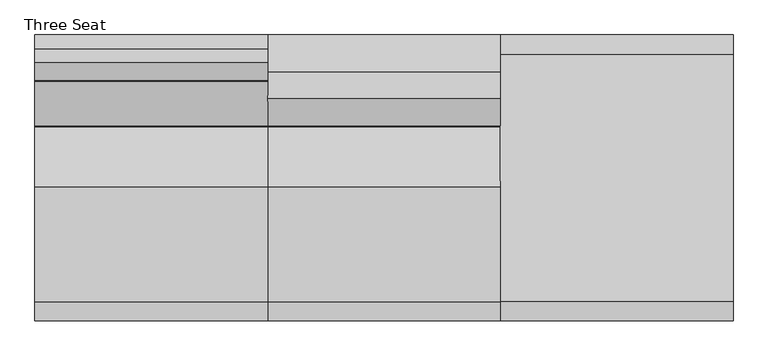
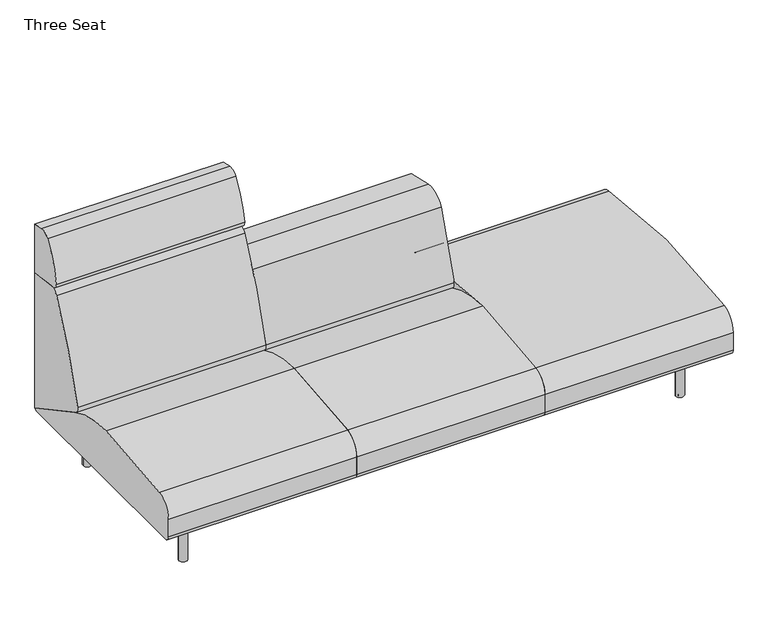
"""IFC4 building model written with IfcOpenShell, lengths in millimetres: furniture geometry, Coalesse_AM_Seating_LoungeChair_Sistema_LegBase_ThreeSeat : Three Seat."""

from ifc_helpers import new_model, si_unit, point, frame, frame_2d, origin, origin_with_axes, place, context, project, spatial, polyline, circle_curve, trimmed, segment, composite_curve, outline, extrude, source, transform, mapped, element, save


def three_seat_a38e2124(model_context):
    return source(origin(), model_context, "Body", "SweptSolid", [
        extrude(outline(composite_curve([segment(polyline([(459.4795619, 985.4592709), (459.4795619, 780.845009), (327.9700683, 799.327463)]), True, "CONTINUOUS"), segment(trimmed(circle_curve(frame_2d((330.6213159, 818.1920697)), 19.05), [point((327.9700683, 799.327463))], [point((311.7521971, 820.8110119))], False, "CARTESIAN"), True, "CONTINUOUS"), segment(trimmed(circle_curve(frame_2d((679.5815991, 769.7580741)), 371.3554516), [point((311.7521971, 820.8110119))], [point((372.1246101, 978.0249014))], False, "CARTESIAN"), True, "CONTINUOUS"), segment(trimmed(circle_curve(frame_2d((405.8944569, 955.1497055)), 40.7881985), [point((372.1246101, 978.0249014))], [point((414.3748002, 995.046584))], False, "CARTESIAN"), True, "CONTINUOUS"), segment(polyline([(414.3748002, 995.046584), (459.4795619, 985.4592709)]), True, "CONTINUOUS")], self_intersect=False)), frame((-374.8034773, 0.0, 0.0), z_axis=(1.0, 0.0, 0.0), x_axis=(0.0, 1.0, 0.0)), (0.0, 0.0, 1.0), 749.3),
        extrude(outline(composite_curve([segment(polyline([(459.4795619, 780.845009), (459.4795619, 228.1929806)]), True, "CONTINUOUS"), segment(trimmed(circle_curve(frame_2d((191.495971, 228.1929806)), 267.983591), [point((459.4795619, 228.1929806))], [point((458.9860775, 211.937276))], False, "CARTESIAN"), True, "CONTINUOUS"), segment(polyline([(458.9860775, 211.937276), (177.4990556, 364.1028799)]), True, "CONTINUOUS"), segment(trimmed(circle_curve(frame_2d((189.5778307, 386.4470781)), 25.4), [point((177.4990556, 364.1028799))], [point((164.9600055, 392.7018911))], False, "CARTESIAN"), True, "CONTINUOUS"), segment(trimmed(circle_curve(frame_2d((1918.112812, -52.7331923)), 1808.8552115), [point((164.9600055, 392.7018911))], [point((310.2880264, 776.0349508))], False, "CARTESIAN"), True, "CONTINUOUS"), segment(trimmed(circle_curve(frame_2d((344.1537133, 758.5785695)), 38.1), [point((310.2880264, 776.0349508))], [point((349.4562085, 796.3077829))], False, "CARTESIAN"), True, "CONTINUOUS"), segment(polyline([(349.4562085, 796.3077829), (459.4795619, 780.845009)]), True, "CONTINUOUS")], self_intersect=False)), frame((-374.8034773, 0.0, 0.0), z_axis=(1.0, 0.0, 0.0), x_axis=(0.0, 1.0, 0.0)), (0.0, 0.0, 1.0), 749.3),
        extrude(outline(composite_curve([segment(trimmed(circle_curve(frame_2d((-438.9184381, 226.822)), 22.352), [point((-438.9184381, 204.47))], [point((-461.2704381, 226.822))], False, "CARTESIAN"), True, "CONTINUOUS"), segment(polyline([(-461.2704381, 226.822), (-461.2704381, 301.4421993)]), True, "CONTINUOUS"), segment(trimmed(circle_curve(frame_2d((-385.0704381, 301.4421993)), 76.2), [point((-461.2704381, 301.4421993))], [point((-398.9277015, 376.3716077))], False, "CARTESIAN"), True, "CONTINUOUS"), segment(trimmed(circle_curve(frame_2d((2.2103559, -1792.6740646)), 2205.8265729), [point((-398.9277015, 376.3716077))], [point((-31.1968175, 412.8995185))], False, "CARTESIAN"), True, "CONTINUOUS"), segment(trimmed(circle_curve(frame_2d((-24.5128424, -28.3829182)), 441.333054), [point((-31.1968175, 412.8995185))], [point((184.5757008, 360.2774035))], False, "CARTESIAN"), True, "CONTINUOUS"), segment(polyline([(184.5757008, 360.2774035), (458.9860775, 211.937276)]), True, "CONTINUOUS"), segment(trimmed(circle_curve(frame_2d((442.3266309, 226.7871991)), 22.3171991), [point((458.9860775, 211.937276))], [point((442.3266309, 204.47))], False, "CARTESIAN"), True, "CONTINUOUS"), segment(polyline([(442.3266309, 204.47), (-438.9184381, 204.47)]), True, "CONTINUOUS")], self_intersect=False)), frame((-374.8034773, 0.0, 0.0), z_axis=(1.0, 0.0, 0.0), x_axis=(0.0, 1.0, 0.0)), (0.0, 0.0, 1.0), 749.3),
        extrude(outline(composite_curve([segment(polyline([(459.4795619, 673.6041325), (459.4795619, 228.1929806)]), True, "CONTINUOUS"), segment(trimmed(circle_curve(frame_2d((191.495971, 228.1929806)), 267.983591), [point((459.4795619, 228.1929806))], [point((458.9860775, 211.937276))], False, "CARTESIAN"), True, "CONTINUOUS"), segment(polyline([(458.9860775, 211.937276), (177.4990556, 364.1028799)]), True, "CONTINUOUS"), segment(trimmed(circle_curve(frame_2d((189.5778307, 386.4470781)), 25.4), [point((177.4990556, 364.1028799))], [point((164.9600055, 392.7018911))], False, "CARTESIAN"), True, "CONTINUOUS"), segment(trimmed(circle_curve(frame_2d((1918.112812, -52.7331923)), 1808.8552115), [point((164.9600055, 392.7018911))], [point((254.1018253, 656.5090883))], False, "CARTESIAN"), True, "CONTINUOUS"), segment(trimmed(circle_curve(frame_2d((324.2001043, 626.6314831)), 76.2), [point((254.1018253, 656.5090883))], [point((341.3413746, 700.8784821))], False, "CARTESIAN"), True, "CONTINUOUS"), segment(polyline([(341.3413746, 700.8784821), (459.4795619, 673.6041325)]), True, "CONTINUOUS")], self_intersect=False)), frame((374.4965227, 0.0, 0.0), z_axis=(1.0, 0.0, 0.0), x_axis=(0.0, 1.0, 0.0)), (0.0, 0.0, 1.0), 749.3),
        extrude(outline(composite_curve([segment(trimmed(circle_curve(frame_2d((-438.9184381, 226.822)), 22.352), [point((-438.9184381, 204.47))], [point((-461.2704381, 226.822))], False, "CARTESIAN"), True, "CONTINUOUS"), segment(polyline([(-461.2704381, 226.822), (-461.2704381, 301.4421993)]), True, "CONTINUOUS"), segment(trimmed(circle_curve(frame_2d((-385.0704381, 301.4421993)), 76.2), [point((-461.2704381, 301.4421993))], [point((-398.9277015, 376.3716077))], False, "CARTESIAN"), True, "CONTINUOUS"), segment(trimmed(circle_curve(frame_2d((2.2103559, -1792.6740646)), 2205.8265729), [point((-398.9277015, 376.3716077))], [point((-31.1968175, 412.8995185))], False, "CARTESIAN"), True, "CONTINUOUS"), segment(trimmed(circle_curve(frame_2d((-24.5128424, -28.3829182)), 441.333054), [point((-31.1968175, 412.8995185))], [point((184.5757008, 360.2774035))], False, "CARTESIAN"), True, "CONTINUOUS"), segment(polyline([(184.5757008, 360.2774035), (458.9860775, 211.937276)]), True, "CONTINUOUS"), segment(trimmed(circle_curve(frame_2d((442.3266309, 226.7871991)), 22.3171991), [point((458.9860775, 211.937276))], [point((442.3266309, 204.47))], False, "CARTESIAN"), True, "CONTINUOUS"), segment(polyline([(442.3266309, 204.47), (-438.9184381, 204.47)]), True, "CONTINUOUS")], self_intersect=False)), frame((374.4965227, 0.0, 0.0), z_axis=(1.0, 0.0, 0.0), x_axis=(0.0, 1.0, 0.0)), (0.0, 0.0, 1.0), 749.3),
        extrude(outline(composite_curve([segment(trimmed(circle_curve(frame_2d((-438.9184381, 226.822)), 22.352), [point((-438.9184381, 204.47))], [point((-461.2704381, 226.822))], False, "CARTESIAN"), True, "CONTINUOUS"), segment(polyline([(-461.2704381, 226.822), (-461.2704381, 301.4421993)]), True, "CONTINUOUS"), segment(trimmed(circle_curve(frame_2d((-385.0704381, 301.4421993)), 76.2), [point((-461.2704381, 301.4421993))], [point((-398.9279534, 376.3715612))], False, "CARTESIAN"), True, "CONTINUOUS"), segment(trimmed(circle_curve(frame_2d((-0.3717831, -1778.6727457)), 2191.5891461), [point((-398.9279534, 376.3715612))], [point((397.0993513, 376.5719464))], False, "CARTESIAN"), True, "CONTINUOUS"), segment(trimmed(circle_curve(frame_2d((383.2795619, 301.6356173)), 76.2), [point((397.0993513, 376.5719464))], [point((459.4795619, 301.6356173))], False, "CARTESIAN"), True, "CONTINUOUS"), segment(polyline([(459.4795619, 301.6356173), (459.4795619, 226.7871991)]), True, "CONTINUOUS"), segment(trimmed(circle_curve(frame_2d((437.1623628, 226.7871991)), 22.3171991), [point((459.4795619, 226.7871991))], [point((437.1623628, 204.47))], False, "CARTESIAN"), True, "CONTINUOUS"), segment(polyline([(437.1623628, 204.47), (-438.9184381, 204.47)]), True, "CONTINUOUS")], self_intersect=False)), frame((1123.7965227, 0.0, 0.0), z_axis=(1.0, 0.0, 0.0), x_axis=(0.0, 1.0, 0.0)), (0.0, 0.0, 1.0), 749.3),
        extrude(outline(composite_curve([segment(trimmed(circle_curve(frame_2d((1738.4765227, 335.9943389)), 6.096), [point((1744.5725227, 335.9943389))], [point((1732.3805227, 335.9943389))], False, "CARTESIAN"), True, "CONTINUOUS"), segment(trimmed(circle_curve(frame_2d((1738.4765227, 335.9943389)), 6.096), [point((1732.3805227, 335.9943389))], [point((1744.5725227, 335.9943389))], False, "CARTESIAN"), True, "CONTINUOUS")], self_intersect=False)), origin_with_axes(), (0.0, 0.0, 1.0), 4.3662291),
        extrude(outline(composite_curve([segment(trimmed(circle_curve(frame_2d((1738.4765227, -327.2630889)), 6.096), [point((1744.5725227, -327.2630889))], [point((1732.3805227, -327.2630889))], False, "CARTESIAN"), True, "CONTINUOUS"), segment(trimmed(circle_curve(frame_2d((1738.4765227, -327.2630889)), 6.096), [point((1732.3805227, -327.2630889))], [point((1744.5725227, -327.2630889))], False, "CARTESIAN"), True, "CONTINUOUS")], self_intersect=False)), origin_with_axes(), (0.0, 0.0, 1.0), 4.3662291),
        extrude(outline(composite_curve([segment(polyline([(157.0399209, 1751.056375), (201.7356243, 1751.056375)]), True, "CONTINUOUS"), segment(trimmed(circle_curve(frame_2d((201.7356243, 1748.008375)), 3.048), [point((201.7356243, 1751.056375))], [point((204.7836243, 1748.008375))], False, "CARTESIAN"), True, "CONTINUOUS"), segment(polyline([(204.7836243, 1748.008375), (204.7836243, 1728.666199)]), True, "CONTINUOUS"), segment(trimmed(circle_curve(frame_2d((201.7356243, 1728.666199)), 3.048), [point((204.7836243, 1728.666199))], [point((201.7356243, 1725.618199))], False, "CARTESIAN"), True, "CONTINUOUS"), segment(polyline([(201.7356243, 1725.618199), (157.1249936, 1725.618199)]), True, "CONTINUOUS"), segment(trimmed(circle_curve(frame_2d((157.1249936, 1728.7512718)), 3.1330728), [point((157.1249936, 1725.618199))], [point((153.9919209, 1728.7512718))], False, "CARTESIAN"), True, "CONTINUOUS"), segment(polyline([(153.9919209, 1728.7512718), (153.9919209, 1748.008375)]), True, "CONTINUOUS"), segment(trimmed(circle_curve(frame_2d((157.0399209, 1748.008375)), 3.048), [point((153.9919209, 1748.008375))], [point((157.0399209, 1751.056375))], False, "CARTESIAN"), True, "CONTINUOUS")], self_intersect=False)), frame((0.0, 222.3519802, 0.0), z_axis=(0.0, 1.0, 0.0), x_axis=(0.0, 0.0, 1.0)), (0.0, 0.0, 1.0), 92.6273161),
        extrude(outline(composite_curve([segment(polyline([(157.0399209, 1751.056375), (201.7356243, 1751.056375)]), True, "CONTINUOUS"), segment(trimmed(circle_curve(frame_2d((201.7356243, 1748.008375)), 3.048), [point((201.7356243, 1751.056375))], [point((204.7836243, 1748.008375))], False, "CARTESIAN"), True, "CONTINUOUS"), segment(polyline([(204.7836243, 1748.008375), (204.7836243, 1728.666199)]), True, "CONTINUOUS"), segment(trimmed(circle_curve(frame_2d((201.7356243, 1728.666199)), 3.048), [point((204.7836243, 1728.666199))], [point((201.7356243, 1725.618199))], False, "CARTESIAN"), True, "CONTINUOUS"), segment(polyline([(201.7356243, 1725.618199), (157.1249936, 1725.618199)]), True, "CONTINUOUS"), segment(trimmed(circle_curve(frame_2d((157.1249936, 1728.7512718)), 3.1330728), [point((157.1249936, 1725.618199))], [point((153.9919209, 1728.7512718))], False, "CARTESIAN"), True, "CONTINUOUS"), segment(polyline([(153.9919209, 1728.7512718), (153.9919209, 1748.008375)]), True, "CONTINUOUS"), segment(trimmed(circle_curve(frame_2d((157.0399209, 1748.008375)), 3.048), [point((153.9919209, 1748.008375))], [point((157.0399209, 1751.056375))], False, "CARTESIAN"), True, "CONTINUOUS")], self_intersect=False)), frame((0.0, -314.9792963, 0.0), z_axis=(0.0, 1.0, 0.0), x_axis=(0.0, 0.0, 1.0)), (0.0, 0.0, 1.0), 92.6273161),
        extrude(outline(composite_curve([segment(trimmed(circle_curve(frame_2d((176.3356606, 1715.8259944)), 3.048), [point((179.3836606, 1715.8259944))], [point((176.3356606, 1712.7779944))], False, "CARTESIAN"), True, "CONTINUOUS"), segment(polyline([(176.3356606, 1712.7779944), (157.0399209, 1712.7779944)]), True, "CONTINUOUS"), segment(trimmed(circle_curve(frame_2d((157.0399209, 1715.8259944)), 3.048), [point((157.0399209, 1712.7779944))], [point((153.9919209, 1715.8259944))], False, "CARTESIAN"), True, "CONTINUOUS"), segment(polyline([(153.9919209, 1715.8259944), (153.9919209, 1760.5135501)]), True, "CONTINUOUS"), segment(trimmed(circle_curve(frame_2d((157.056462, 1760.5135501)), 3.0645412), [point((153.9919209, 1760.5135501))], [point((157.056462, 1763.5780913))], False, "CARTESIAN"), True, "CONTINUOUS"), segment(polyline([(157.056462, 1763.5780913), (176.3356606, 1763.5780913)]), True, "CONTINUOUS"), segment(trimmed(circle_curve(frame_2d((176.3356606, 1760.5300913)), 3.048), [point((176.3356606, 1763.5780913))], [point((179.3836606, 1760.5300913))], False, "CARTESIAN"), True, "CONTINUOUS"), segment(polyline([(179.3836606, 1760.5300913), (179.3836606, 1715.8259944)]), True, "CONTINUOUS")], self_intersect=False)), frame((0.0, -222.3519802, 0.0), z_axis=(0.0, 1.0, 0.0), x_axis=(0.0, 0.0, 1.0)), (0.0, 0.0, 1.0), 444.7039604),
        extrude(outline(composite_curve([segment(trimmed(circle_curve(frame_2d((1738.4765227, 332.3095741)), 16.51), [point((1754.9865227, 332.3095741))], [point((1721.9665227, 332.3095741))], False, "CARTESIAN"), True, "CONTINUOUS"), segment(trimmed(circle_curve(frame_2d((1738.4765227, 332.3095741)), 16.51), [point((1721.9665227, 332.3095741))], [point((1754.9865227, 332.3095741))], False, "CARTESIAN"), True, "CONTINUOUS")], self_intersect=False)), frame((0.0, 0.0, 4.3662291), z_axis=(0.0, 0.0, 1.0), x_axis=(1.0, 0.0, 0.0)), (0.0, 0.0, 1.0), 200.1037709),
        extrude(outline(composite_curve([segment(trimmed(circle_curve(frame_2d((1738.0796477, -327.5470741)), 16.51), [point((1754.5896477, -327.5470741))], [point((1721.5696477, -327.5470741))], False, "CARTESIAN"), True, "CONTINUOUS"), segment(trimmed(circle_curve(frame_2d((1738.0796477, -327.5470741)), 16.51), [point((1721.5696477, -327.5470741))], [point((1754.5896477, -327.5470741))], False, "CARTESIAN"), True, "CONTINUOUS")], self_intersect=False)), frame((0.0, 0.0, 4.3662291), z_axis=(0.0, 0.0, 1.0), x_axis=(1.0, 0.0, 0.0)), (0.0, 0.0, 1.0), 200.1037709),
        extrude(outline(composite_curve([segment(trimmed(circle_curve(frame_2d((-240.1834773, 335.9943389)), 6.096), [point((-246.2794773, 335.9943389))], [point((-234.0874773, 335.9943389))], False, "CARTESIAN"), True, "CONTINUOUS"), segment(trimmed(circle_curve(frame_2d((-240.1834773, 335.9943389)), 6.096), [point((-234.0874773, 335.9943389))], [point((-246.2794773, 335.9943389))], False, "CARTESIAN"), True, "CONTINUOUS")], self_intersect=False)), origin_with_axes(), (0.0, 0.0, 1.0), 4.3662291),
        extrude(outline(composite_curve([segment(trimmed(circle_curve(frame_2d((-240.1834773, -327.2630889)), 6.096), [point((-246.2794773, -327.2630889))], [point((-234.0874773, -327.2630889))], False, "CARTESIAN"), True, "CONTINUOUS"), segment(trimmed(circle_curve(frame_2d((-240.1834773, -327.2630889)), 6.096), [point((-234.0874773, -327.2630889))], [point((-246.2794773, -327.2630889))], False, "CARTESIAN"), True, "CONTINUOUS")], self_intersect=False)), origin_with_axes(), (0.0, 0.0, 1.0), 4.3662291),
        extrude(outline(composite_curve([segment(trimmed(circle_curve(frame_2d((157.0399209, -249.7153296)), 3.048), [point((157.0399209, -252.7633296))], [point((153.9919209, -249.7153296))], False, "CARTESIAN"), True, "CONTINUOUS"), segment(polyline([(153.9919209, -249.7153296), (153.9919209, -230.4582264)]), True, "CONTINUOUS"), segment(trimmed(circle_curve(frame_2d((157.1249936, -230.4582264)), 3.1330728), [point((153.9919209, -230.4582264))], [point((157.1249936, -227.3251537))], False, "CARTESIAN"), True, "CONTINUOUS"), segment(polyline([(157.1249936, -227.3251537), (201.7356243, -227.3251537)]), True, "CONTINUOUS"), segment(trimmed(circle_curve(frame_2d((201.7356243, -230.3731537)), 3.048), [point((201.7356243, -227.3251537))], [point((204.7836243, -230.3731537))], False, "CARTESIAN"), True, "CONTINUOUS"), segment(polyline([(204.7836243, -230.3731537), (204.7836243, -249.7153296)]), True, "CONTINUOUS"), segment(trimmed(circle_curve(frame_2d((201.7356243, -249.7153296)), 3.048), [point((204.7836243, -249.7153296))], [point((201.7356243, -252.7633296))], False, "CARTESIAN"), True, "CONTINUOUS"), segment(polyline([(201.7356243, -252.7633296), (157.0399209, -252.7633296)]), True, "CONTINUOUS")], self_intersect=False)), frame((0.0, 222.3519802, 0.0), z_axis=(0.0, 1.0, 0.0), x_axis=(0.0, 0.0, 1.0)), (0.0, 0.0, 1.0), 92.6273161),
        extrude(outline(composite_curve([segment(trimmed(circle_curve(frame_2d((157.0399209, -249.7153296)), 3.048), [point((157.0399209, -252.7633296))], [point((153.9919209, -249.7153296))], False, "CARTESIAN"), True, "CONTINUOUS"), segment(polyline([(153.9919209, -249.7153296), (153.9919209, -230.4582264)]), True, "CONTINUOUS"), segment(trimmed(circle_curve(frame_2d((157.1249936, -230.4582264)), 3.1330728), [point((153.9919209, -230.4582264))], [point((157.1249936, -227.3251537))], False, "CARTESIAN"), True, "CONTINUOUS"), segment(polyline([(157.1249936, -227.3251537), (201.7356243, -227.3251537)]), True, "CONTINUOUS"), segment(trimmed(circle_curve(frame_2d((201.7356243, -230.3731537)), 3.048), [point((201.7356243, -227.3251537))], [point((204.7836243, -230.3731537))], False, "CARTESIAN"), True, "CONTINUOUS"), segment(polyline([(204.7836243, -230.3731537), (204.7836243, -249.7153296)]), True, "CONTINUOUS"), segment(trimmed(circle_curve(frame_2d((201.7356243, -249.7153296)), 3.048), [point((204.7836243, -249.7153296))], [point((201.7356243, -252.7633296))], False, "CARTESIAN"), True, "CONTINUOUS"), segment(polyline([(201.7356243, -252.7633296), (157.0399209, -252.7633296)]), True, "CONTINUOUS")], self_intersect=False)), frame((0.0, -314.9792963, 0.0), z_axis=(0.0, 1.0, 0.0), x_axis=(0.0, 0.0, 1.0)), (0.0, 0.0, 1.0), 92.6273161),
        extrude(outline(composite_curve([segment(polyline([(179.3836606, -217.532949), (179.3836606, -262.2370459)]), True, "CONTINUOUS"), segment(trimmed(circle_curve(frame_2d((176.3356606, -262.2370459)), 3.048), [point((179.3836606, -262.2370459))], [point((176.3356606, -265.2850459))], False, "CARTESIAN"), True, "CONTINUOUS"), segment(polyline([(176.3356606, -265.2850459), (157.056462, -265.2850459)]), True, "CONTINUOUS"), segment(trimmed(circle_curve(frame_2d((157.056462, -262.2205047)), 3.0645412), [point((157.056462, -265.2850459))], [point((153.9919209, -262.2205047))], False, "CARTESIAN"), True, "CONTINUOUS"), segment(polyline([(153.9919209, -262.2205047), (153.9919209, -217.532949)]), True, "CONTINUOUS"), segment(trimmed(circle_curve(frame_2d((157.0399209, -217.532949)), 3.048), [point((153.9919209, -217.532949))], [point((157.0399209, -214.484949))], False, "CARTESIAN"), True, "CONTINUOUS"), segment(polyline([(157.0399209, -214.484949), (176.3356606, -214.484949)]), True, "CONTINUOUS"), segment(trimmed(circle_curve(frame_2d((176.3356606, -217.532949)), 3.048), [point((176.3356606, -214.484949))], [point((179.3836606, -217.532949))], False, "CARTESIAN"), True, "CONTINUOUS")], self_intersect=False)), frame((0.0, -222.3519802, 0.0), z_axis=(0.0, 1.0, 0.0), x_axis=(0.0, 0.0, 1.0)), (0.0, 0.0, 1.0), 444.7039604),
        extrude(outline(composite_curve([segment(trimmed(circle_curve(frame_2d((-240.1834773, 332.3095741)), 16.51), [point((-256.6934773, 332.3095741))], [point((-223.6734773, 332.3095741))], False, "CARTESIAN"), True, "CONTINUOUS"), segment(trimmed(circle_curve(frame_2d((-240.1834773, 332.3095741)), 16.51), [point((-223.6734773, 332.3095741))], [point((-256.6934773, 332.3095741))], False, "CARTESIAN"), True, "CONTINUOUS")], self_intersect=False)), frame((0.0, 0.0, 4.3662291), z_axis=(0.0, 0.0, 1.0), x_axis=(1.0, 0.0, 0.0)), (0.0, 0.0, 1.0), 200.1037709),
        extrude(outline(composite_curve([segment(trimmed(circle_curve(frame_2d((-239.7866023, -327.5470741)), 16.51), [point((-256.2966023, -327.5470741))], [point((-223.2766023, -327.5470741))], False, "CARTESIAN"), True, "CONTINUOUS"), segment(trimmed(circle_curve(frame_2d((-239.7866023, -327.5470741)), 16.51), [point((-223.2766023, -327.5470741))], [point((-256.2966023, -327.5470741))], False, "CARTESIAN"), True, "CONTINUOUS")], self_intersect=False)), frame((0.0, 0.0, 4.3662291), z_axis=(0.0, 0.0, 1.0), x_axis=(1.0, 0.0, 0.0)), (0.0, 0.0, 1.0), 200.1037709),
    ])


if __name__ == "__main__":
    model = new_model("IFC4")
    model_context = context("Model", 3, world=origin())
    ifc_project = project(units=[si_unit("LENGTHUNIT", "METRE", prefix="MILLI")], contexts=[model_context])
    site = spatial("IfcSite", under=ifc_project)
    building = spatial("IfcBuilding", under=site)
    placement = place(None, origin())
    three_seat_shape = three_seat_a38e2124(model_context)
    element("IfcFurniture", 1, ObjectType="Coalesse_AM_Seating_LoungeChair_Sistema_LegBase_ThreeSeat : Three Seat", at=placement, inside=building, context=model_context, shape_type="MappedRepresentation", body=[
        mapped(three_seat_shape, transform((0.0, 0.0, 0.0), x_axis=(1.0, 0.0, 0.0), y_axis=(0.0, 1.0, 0.0), z_axis=(0.0, 0.0, 1.0))),
    ])
    save(model, "model.ifc")
